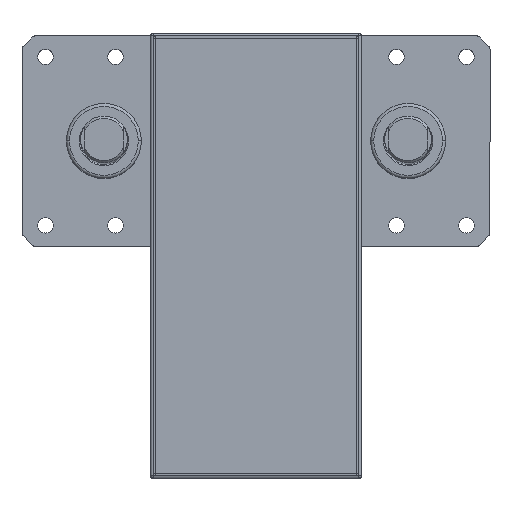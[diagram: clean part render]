
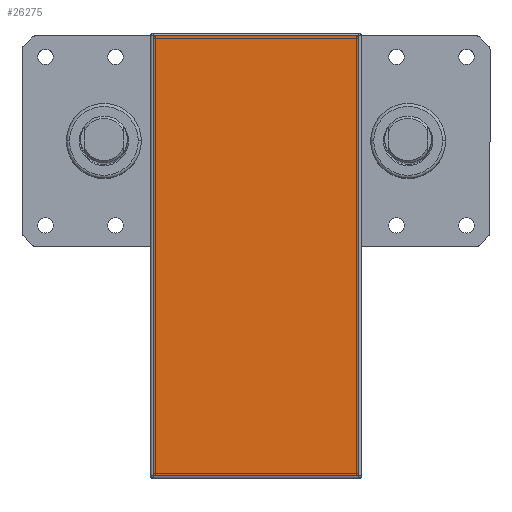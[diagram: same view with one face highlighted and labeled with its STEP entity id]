
A CAD part, top view. The second image highlights one B-rep face of the part: STEP entity #26275.
In plain terms, the highlighted planar face has unit normal (0, 0, 1).
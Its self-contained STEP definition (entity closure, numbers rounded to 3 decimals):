
#505 = EDGE_LOOP ( 'NONE', ( #14820, #29694, #26378, #35444 ) ) ;
#2468 = PLANE ( 'NONE',  #31149 ) ;
#4525 = VERTEX_POINT ( 'NONE', #31435 ) ;
#4853 = EDGE_CURVE ( 'NONE', #4525, #25804, #22034, .T. ) ;
#5649 = DIRECTION ( 'NONE',  ( 1., 0., 0. ) ) ;
#5989 = VERTEX_POINT ( 'NONE', #20211 ) ;
#6132 = DIRECTION ( 'NONE',  ( 0., 0., 1. ) ) ;
#9015 = CARTESIAN_POINT ( 'NONE',  ( 44., -144., 521. ) ) ;
#14820 = ORIENTED_EDGE ( 'NONE', *, *, #4853, .T. ) ;
#16635 = CARTESIAN_POINT ( 'NONE',  ( -44., -144., 521. ) ) ;
#17748 = VECTOR ( 'NONE', #18429, 1000. ) ;
#18429 = DIRECTION ( 'NONE',  ( -1., 0., 0. ) ) ;
#19945 = VECTOR ( 'NONE', #36489, 1000. ) ;
#20211 = CARTESIAN_POINT ( 'NONE',  ( 44., 44., 521. ) ) ;
#22034 = LINE ( 'NONE', #16635, #19945 ) ;
#24652 = VECTOR ( 'NONE', #5649, 1000. ) ;
#24909 = DIRECTION ( 'NONE',  ( 0., 1., 0. ) ) ;
#24947 = CARTESIAN_POINT ( 'NONE',  ( -44., 44., 521. ) ) ;
#25804 = VERTEX_POINT ( 'NONE', #29906 ) ;
#26135 = CARTESIAN_POINT ( 'NONE',  ( -44., -144., 521. ) ) ;
#26275 = ADVANCED_FACE ( 'NONE', ( #30484 ), #2468, .T. ) ;
#26378 = ORIENTED_EDGE ( 'NONE', *, *, #36166, .T. ) ;
#26588 = LINE ( 'NONE', #24947, #17748 ) ;
#27356 = CARTESIAN_POINT ( 'NONE',  ( 44., -144., 521. ) ) ;
#29435 = DIRECTION ( 'NONE',  ( 1., 0., 0. ) ) ;
#29694 = ORIENTED_EDGE ( 'NONE', *, *, #37537, .T. ) ;
#29724 = EDGE_CURVE ( 'NONE', #5989, #4525, #26588, .T. ) ;
#29906 = CARTESIAN_POINT ( 'NONE',  ( -44., -144., 521. ) ) ;
#30484 = FACE_OUTER_BOUND ( 'NONE', #505, .T. ) ;
#31149 = AXIS2_PLACEMENT_3D ( 'NONE', #26135, #6132, #29435 ) ;
#31435 = CARTESIAN_POINT ( 'NONE',  ( -44., 44., 521. ) ) ;
#32009 = VECTOR ( 'NONE', #24909, 1000. ) ;
#34777 = VERTEX_POINT ( 'NONE', #27356 ) ;
#35444 = ORIENTED_EDGE ( 'NONE', *, *, #29724, .T. ) ;
#36166 = EDGE_CURVE ( 'NONE', #34777, #5989, #38746, .T. ) ;
#36489 = DIRECTION ( 'NONE',  ( 0., -1., 0. ) ) ;
#37537 = EDGE_CURVE ( 'NONE', #25804, #34777, #42228, .T. ) ;
#38201 = CARTESIAN_POINT ( 'NONE',  ( 44., 44., 521. ) ) ;
#38746 = LINE ( 'NONE', #38201, #32009 ) ;
#42228 = LINE ( 'NONE', #9015, #24652 ) ;
